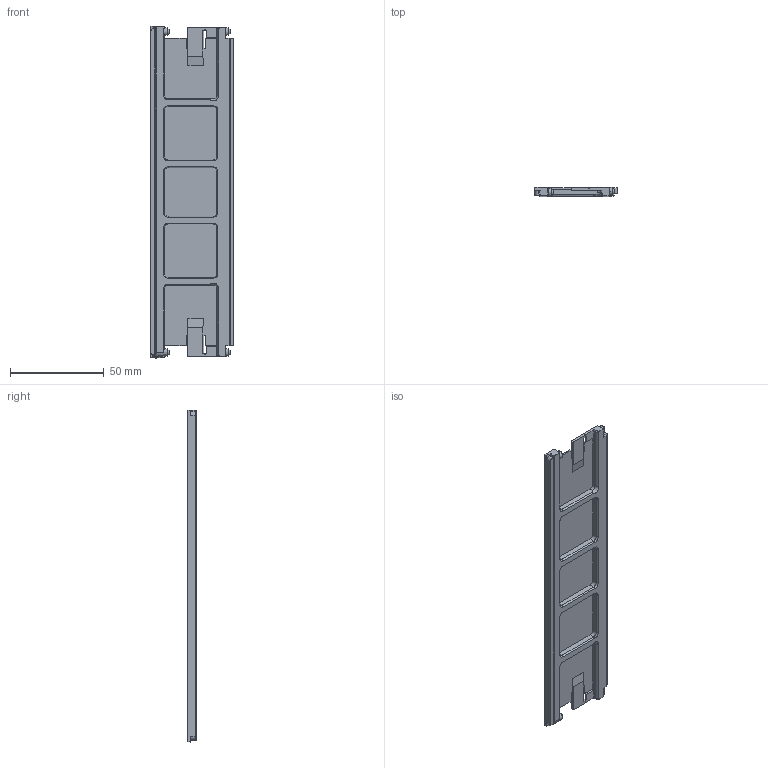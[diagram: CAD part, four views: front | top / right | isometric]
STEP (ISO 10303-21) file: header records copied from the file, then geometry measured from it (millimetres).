
FILE_DESCRIPTION((''),'2;1');
FILE_NAME('C:\Uebbing\PARAMETERKETTEN\KOLIBRI\Kol_65_195_1\Kol_65_195_1 Klappsteg.stp','2011-11-02T15:17:31',('Uebbing'),(''),'Autodesk Inventor 10','Autodesk Inventor 10','');
FILE_SCHEMA(('AUTOMOTIVE_DESIGN { 1 0 10303 214 1 1 1 1 }'));
Length unit declared in the file: millimetre
Products named in the file (1): Kol_65_195_1 Klappsteg
Bounding box: 43.74 x 4.52 x 176.6 mm (x, y, z)
Volume: 17288.2 mm3; surface area: 18532.6 mm2
Topology: 1 solids, 1 shells, 187 faces, 495 edges, 313 vertices
Faces by surface type: bspline 77, plane 63, cylinder 31, torus 13, cone 3
Full cylindrical faces by diameter (mm): 4 x1
Entity records: 6483 total; most frequent: CARTESIAN_POINT 2072, ORIENTED_EDGE 978, DIRECTION 826, EDGE_CURVE 489, VECTOR 322, LINE 322, VERTEX_POINT 311, AXIS2_PLACEMENT_3D 252
